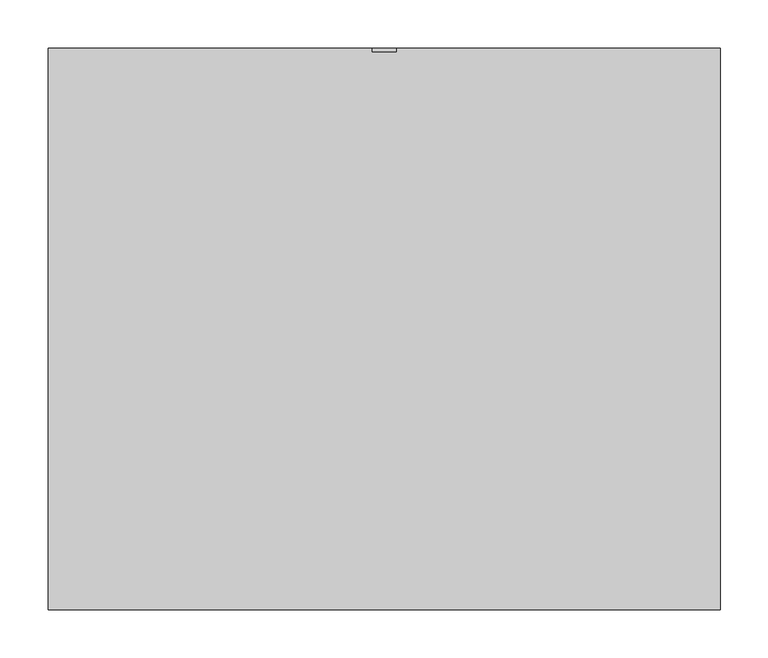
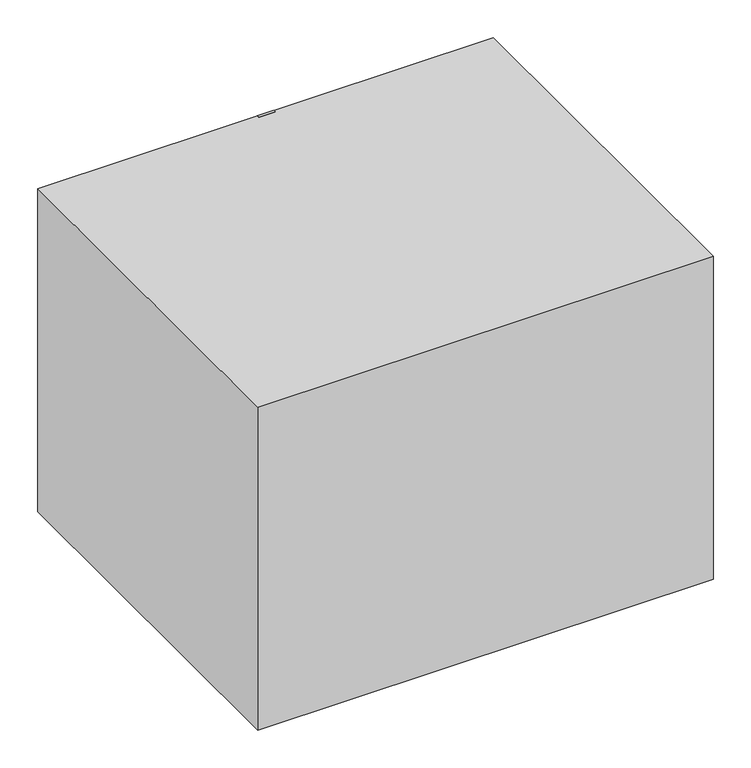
"""IFC4 building model written with IfcOpenShell, lengths in millimetres: damper geometry, Дроссель-клапан_Прямоугольный : Дроссель-клапан_Прямоугольный."""

from ifc_helpers import new_model, si_unit, frame, origin, place, context, project, spatial, polyline, circle_curve, outline, extrude, source, transform, mapped, element, save
from ifc_brep_helpers import plane_surface, cylinder_surface, advanced_brep


def damper_62d6e836(model_context):
    return source(origin(), model_context, "Body", "SolidModel", [
        advanced_brep(
        [(12.5, 280.0, -40.0), (12.5, 284.0, -40.0), (12.5, 284.0, 140.0), (12.5, 310.0, 210.0), (12.5, 310.0, 350.0), (12.5, 306.0, 350.0), (12.5, 306.0, 210.0), (12.5, 280.0, 140.0), (-12.5, 280.0, -40.0), (-12.5, 280.0, 140.0), (-12.5, 306.0, 210.0), (-12.5, 306.0, 350.0), (-12.5, 310.0, 350.0), (-12.5, 310.0, 210.0), (-12.5, 284.0, 140.0), (-12.5, 284.0, -40.0), (0.0, 284.0, -10.0), (0.0, 284.0, 10.0), (0.0, 310.0, 10.0), (0.0, 310.0, -10.0)],
        [
            (0, 1),
            (1, 2),
            (2, 3),
            (3, 4),
            (4, 5),
            (5, 6),
            (6, 7),
            (7, 0),
            (8, 9),
            (9, 10),
            (10, 11),
            (11, 12),
            (12, 13),
            (13, 14),
            (14, 15),
            (15, 8),
            (0, 8),
            (15, 1),
            (14, 2),
            (16, 17, circle_curve(frame((0.0, 284.0, 0.0), z_axis=(0.0, -1.0, 0.0), x_axis=(0.0, 0.0, -1.0)), 10.0)),
            (17, 16, circle_curve(frame((0.0, 284.0, 0.0), z_axis=(0.0, -1.0, 0.0), x_axis=(0.0, 0.0, -1.0)), 10.0)),
            (3, 13),
            (12, 4),
            (11, 5),
            (10, 6),
            (7, 9),
            (18, 19, circle_curve(frame((0.0, 310.0, 0.0), z_axis=(0.0, 1.0, 0.0), x_axis=(0.0, 0.0, -1.0)), 10.0)),
            (19, 18, circle_curve(frame((0.0, 310.0, 0.0), z_axis=(0.0, 1.0, 0.0), x_axis=(0.0, 0.0, -1.0)), 10.0)),
            (18, 17),
            (16, 19),
        ],
        [
            plane_surface(frame((12.5, 284.0, -40.0), z_axis=(1.0, 0.0, 0.0), x_axis=(0.0, 1.0, 0.0))),
            plane_surface(frame((-12.5, 284.0, -40.0), z_axis=(-1.0, 0.0, 0.0), x_axis=(0.0, -1.0, 0.0))),
            plane_surface(frame((12.5, 280.0, -40.0), z_axis=(0.0, 0.0, -1.0), x_axis=(-1.0, 0.0, 0.0))),
            plane_surface(frame((12.5, 284.0, -40.0), z_axis=(0.0, 1.0, 0.0), x_axis=(-1.0, 0.0, 0.0))),
            plane_surface(frame((12.5, 310.0, 210.0), z_axis=(0.0, 1.0, 0.0), x_axis=(-1.0, 0.0, 0.0))),
            plane_surface(frame((12.5, 310.0, 350.0), z_axis=(0.0, 0.0, 1.0), x_axis=(-1.0, 0.0, 0.0))),
            plane_surface(frame((12.5, 306.0, 350.0), z_axis=(0.0, -1.0, 0.0), x_axis=(-1.0, 0.0, 0.0))),
            plane_surface(frame((12.5, 280.0, 140.0), z_axis=(0.0, -1.0, 0.0), x_axis=(-1.0, 0.0, 0.0))),
            plane_surface(frame((0.0, 310.0, -10.0), z_axis=(0.0, 1.0, 0.0), x_axis=(-1.0, 0.0, 0.0))),
            cylinder_surface(frame((0.0, 280.0, 0.0), z_axis=(0.0, 1.0, 0.0), x_axis=(0.0, 0.0, -1.0)), 10.0),
            plane_surface(frame((12.5, 284.0, 140.0), z_axis=(0.0, 0.9374252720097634, -0.34818652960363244), x_axis=(-1.0, 0.0, 0.0))),
            plane_surface(frame((12.5, 306.0, 210.0), z_axis=(0.0, -0.9374252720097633, 0.3481865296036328), x_axis=(-1.0, 0.0, 0.0))),
        ],
        [
            (0, [[1, 2, 3, 4, 5, 6, 7, 8]]),
            (1, [[9, 10, 11, 12, 13, 14, 15, 16]]),
            (2, [[-1, 17, -16, 18]]),
            (3, [[-2, -18, -15, 19], [20, 21]]),
            (4, [[-4, 22, -13, 23]]),
            (5, [[-5, -23, -12, 24]]),
            (6, [[-6, -24, -11, 25]]),
            (7, [[-8, 26, -9, -17]]),
            (8, [[27, 28]]),
            (9, [[-27, 29, -20, 30]]),
            (9, [[-28, -30, -21, -29]]),
            (10, [[-3, -19, -14, -22]]),
            (11, [[-7, -25, -10, -26]]),
        ],
    ),
        extrude(outline(polyline([(75.0, 280.0), (75.0, 250.0), (-75.0, 250.0), (-75.0, 280.0), (75.0, 280.0)])), frame((0.0, 0.0, -75.0), z_axis=(0.0, 0.0, 1.0), x_axis=(1.0, 0.0, 0.0)), (0.0, 0.0, 1.0), 150.0),
        extrude(outline(polyline([(175.0, 250.0), (175.0, -250.0), (-175.0, -250.0), (-175.0, 250.0), (175.0, 250.0)])), frame((0.0, 0.0, -150.0), z_axis=(0.0, 0.0, 1.0), x_axis=(1.0, 0.0, 0.0)), (0.0, 0.0, 1.0), 300.0),
        extrude(outline(polyline([(350.0, 310.0), (350.0, -275.0), (-350.0, -275.0), (-350.0, 310.0), (350.0, 310.0)])), frame((0.0, 0.0, -175.0), z_axis=(0.0, 0.0, 1.0), x_axis=(1.0, 0.0, 0.0)), (0.0, 0.0, 1.0), 525.0),
    ])


if __name__ == "__main__":
    model = new_model("IFC4")
    model_context = context("Model", 3, world=origin())
    ifc_project = project(units=[si_unit("LENGTHUNIT", "METRE", prefix="MILLI")], contexts=[model_context])
    site = spatial("IfcSite", under=ifc_project)
    building = spatial("IfcBuilding", under=site)
    placement = place(None, origin())
    damper_shape = damper_62d6e836(model_context)
    element("IfcDamper", 1, ObjectType="Дроссель-клапан_Прямоугольный : Дроссель-клапан_Прямоугольный", at=placement, inside=building, context=model_context, shape_type="MappedRepresentation", body=[
        mapped(damper_shape, transform((0.0, 0.0, 0.0), x_axis=(1.0, 0.0, 0.0), y_axis=(0.0, 1.0, 0.0), z_axis=(0.0, 0.0, 1.0))),
    ])
    save(model, "model.ifc")
